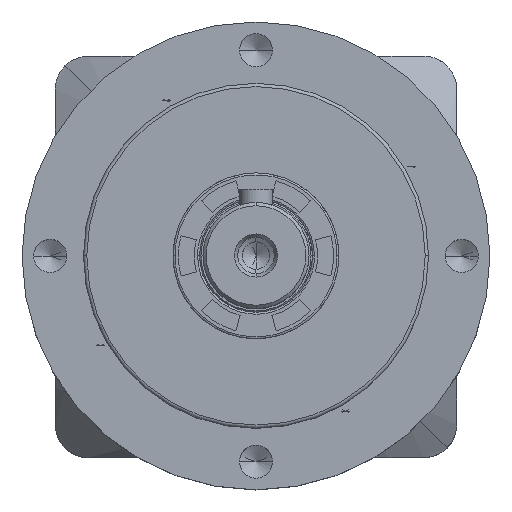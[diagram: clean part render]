
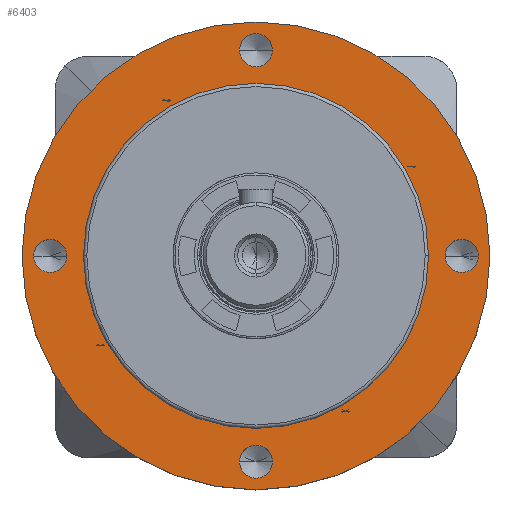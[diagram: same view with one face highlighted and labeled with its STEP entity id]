
A CAD part, top view. The second image highlights one B-rep face of the part: STEP entity #6403.
In plain terms, the highlighted planar face has unit normal (0, 0, 1).
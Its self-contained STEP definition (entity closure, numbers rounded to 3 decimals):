
#63 = CIRCLE ( 'NONE', #2029, 2.5 ) ;
#173 = DIRECTION ( 'NONE',  ( 1., 0., 0. ) ) ;
#534 = AXIS2_PLACEMENT_3D ( 'NONE', #22932, #31582, #24022 ) ;
#1426 = EDGE_CURVE ( 'NONE', #13946, #19860, #8158, .T. ) ;
#1509 = CIRCLE ( 'NONE', #27262, 2.5 ) ;
#1602 = ORIENTED_EDGE ( 'NONE', *, *, #26136, .F. ) ;
#1661 = VERTEX_POINT ( 'NONE', #27101 ) ;
#1818 = EDGE_CURVE ( 'NONE', #21128, #8389, #18633, .T. ) ;
#1856 = DIRECTION ( 'NONE',  ( 0., 0., 1. ) ) ;
#1943 = DIRECTION ( 'NONE',  ( 1., 0., 0. ) ) ;
#1968 = DIRECTION ( 'NONE',  ( 1., 0., 0. ) ) ;
#2029 = AXIS2_PLACEMENT_3D ( 'NONE', #14669, #31997, #27133 ) ;
#2790 = ORIENTED_EDGE ( 'NONE', *, *, #2900, .F. ) ;
#2900 = EDGE_CURVE ( 'NONE', #18194, #21774, #30619, .T. ) ;
#3446 = AXIS2_PLACEMENT_3D ( 'NONE', #15016, #22802, #173 ) ;
#3681 = CARTESIAN_POINT ( 'NONE',  ( -2.5, -31., 14.9 ) ) ;
#4381 = ORIENTED_EDGE ( 'NONE', *, *, #13811, .F. ) ;
#4598 = EDGE_CURVE ( 'NONE', #8389, #21128, #1509, .T. ) ;
#4798 = EDGE_CURVE ( 'NONE', #9972, #21802, #6976, .T. ) ;
#4892 = EDGE_CURVE ( 'NONE', #21774, #18194, #29029, .T. ) ;
#5655 = AXIS2_PLACEMENT_3D ( 'NONE', #9462, #17023, #1968 ) ;
#5719 = AXIS2_PLACEMENT_3D ( 'NONE', #24407, #11755, #14216 ) ;
#6105 = FACE_OUTER_BOUND ( 'NONE', #6590, .T. ) ;
#6403 = ADVANCED_FACE ( 'NONE', ( #25105, #25863, #13886, #20833, #17375, #6105 ), #23927, .T. ) ;
#6590 = EDGE_LOOP ( 'NONE', ( #32033, #9393 ) ) ;
#6618 = CARTESIAN_POINT ( 'NONE',  ( 2.5, 31., 14.9 ) ) ;
#6662 = AXIS2_PLACEMENT_3D ( 'NONE', #27415, #20048, #14955 ) ;
#6753 = EDGE_LOOP ( 'NONE', ( #19141, #8540 ) ) ;
#6833 = DIRECTION ( 'NONE',  ( 0., 0., 1. ) ) ;
#6976 = CIRCLE ( 'NONE', #5655, 35.25 ) ;
#7024 = AXIS2_PLACEMENT_3D ( 'NONE', #29716, #22566, #27445 ) ;
#7228 = CARTESIAN_POINT ( 'NONE',  ( 33.5, 0., 14.9 ) ) ;
#8158 = CIRCLE ( 'NONE', #6662, 26. ) ;
#8389 = VERTEX_POINT ( 'NONE', #9055 ) ;
#8540 = ORIENTED_EDGE ( 'NONE', *, *, #1426, .F. ) ;
#8737 = CIRCLE ( 'NONE', #13973, 2.5 ) ;
#9055 = CARTESIAN_POINT ( 'NONE',  ( -33.5, 0., 14.9 ) ) ;
#9393 = ORIENTED_EDGE ( 'NONE', *, *, #26377, .T. ) ;
#9462 = CARTESIAN_POINT ( 'NONE',  ( 0., 0., 14.9 ) ) ;
#9972 = VERTEX_POINT ( 'NONE', #29829 ) ;
#10339 = DIRECTION ( 'NONE',  ( 1., 0., 0. ) ) ;
#10454 = CIRCLE ( 'NONE', #5719, 2.5 ) ;
#10495 = CARTESIAN_POINT ( 'NONE',  ( -28.5, 0., 14.9 ) ) ;
#10923 = EDGE_CURVE ( 'NONE', #1661, #27506, #8737, .T. ) ;
#11289 = ORIENTED_EDGE ( 'NONE', *, *, #14667, .F. ) ;
#11356 = EDGE_LOOP ( 'NONE', ( #28326, #11289 ) ) ;
#11755 = DIRECTION ( 'NONE',  ( 0., 0., 1. ) ) ;
#11826 = ORIENTED_EDGE ( 'NONE', *, *, #1818, .F. ) ;
#12142 = AXIS2_PLACEMENT_3D ( 'NONE', #16776, #6833, #1943 ) ;
#12175 = DIRECTION ( 'NONE',  ( 0., 0., 1. ) ) ;
#12931 = AXIS2_PLACEMENT_3D ( 'NONE', #17140, #12175, #19632 ) ;
#13811 = EDGE_CURVE ( 'NONE', #24713, #16640, #10454, .T. ) ;
#13886 = FACE_BOUND ( 'NONE', #30769, .T. ) ;
#13946 = VERTEX_POINT ( 'NONE', #20229 ) ;
#13973 = AXIS2_PLACEMENT_3D ( 'NONE', #17690, #29808, #10339 ) ;
#13986 = DIRECTION ( 'NONE',  ( 1., 0., 0. ) ) ;
#14216 = DIRECTION ( 'NONE',  ( 1., 0., 0. ) ) ;
#14667 = EDGE_CURVE ( 'NONE', #27506, #1661, #26696, .T. ) ;
#14669 = CARTESIAN_POINT ( 'NONE',  ( 0., 31., 14.9 ) ) ;
#14753 = ORIENTED_EDGE ( 'NONE', *, *, #4892, .F. ) ;
#14955 = DIRECTION ( 'NONE',  ( 1., 0., 0. ) ) ;
#15016 = CARTESIAN_POINT ( 'NONE',  ( 0., 0., 14.9 ) ) ;
#15263 = EDGE_CURVE ( 'NONE', #19860, #13946, #27825, .T. ) ;
#15591 = DIRECTION ( 'NONE',  ( 1., 0., 0. ) ) ;
#16440 = CARTESIAN_POINT ( 'NONE',  ( 31., 0., 14.9 ) ) ;
#16575 = CARTESIAN_POINT ( 'NONE',  ( 28.5, 0., 14.9 ) ) ;
#16640 = VERTEX_POINT ( 'NONE', #16662 ) ;
#16662 = CARTESIAN_POINT ( 'NONE',  ( -2.5, 31., 14.9 ) ) ;
#16776 = CARTESIAN_POINT ( 'NONE',  ( 0., 0., 14.9 ) ) ;
#17023 = DIRECTION ( 'NONE',  ( 0., 0., 1. ) ) ;
#17140 = CARTESIAN_POINT ( 'NONE',  ( 31., 0., 14.9 ) ) ;
#17367 = ORIENTED_EDGE ( 'NONE', *, *, #4598, .F. ) ;
#17375 = FACE_BOUND ( 'NONE', #6753, .T. ) ;
#17690 = CARTESIAN_POINT ( 'NONE',  ( 0., -31., 14.9 ) ) ;
#18194 = VERTEX_POINT ( 'NONE', #16575 ) ;
#18633 = CIRCLE ( 'NONE', #29470, 2.5 ) ;
#19141 = ORIENTED_EDGE ( 'NONE', *, *, #15263, .F. ) ;
#19632 = DIRECTION ( 'NONE',  ( 1., 0., 0. ) ) ;
#19860 = VERTEX_POINT ( 'NONE', #21184 ) ;
#20048 = DIRECTION ( 'NONE',  ( 0., 0., 1. ) ) ;
#20229 = CARTESIAN_POINT ( 'NONE',  ( 26., 0., 14.9 ) ) ;
#20254 = DIRECTION ( 'NONE',  ( 0., 0., 1. ) ) ;
#20422 = EDGE_LOOP ( 'NONE', ( #4381, #1602 ) ) ;
#20833 = FACE_BOUND ( 'NONE', #20422, .T. ) ;
#21128 = VERTEX_POINT ( 'NONE', #10495 ) ;
#21184 = CARTESIAN_POINT ( 'NONE',  ( -26., 0., 14.9 ) ) ;
#21213 = DIRECTION ( 'NONE',  ( 0., 0., 1. ) ) ;
#21552 = CARTESIAN_POINT ( 'NONE',  ( -31., 0., 14.9 ) ) ;
#21774 = VERTEX_POINT ( 'NONE', #7228 ) ;
#21802 = VERTEX_POINT ( 'NONE', #24442 ) ;
#22184 = CIRCLE ( 'NONE', #7024, 35.25 ) ;
#22566 = DIRECTION ( 'NONE',  ( 0., 0., 1. ) ) ;
#22802 = DIRECTION ( 'NONE',  ( 0., 0., 1. ) ) ;
#22932 = CARTESIAN_POINT ( 'NONE',  ( 0., -31., 14.9 ) ) ;
#23927 = PLANE ( 'NONE',  #12142 ) ;
#24022 = DIRECTION ( 'NONE',  ( 1., 0., 0. ) ) ;
#24407 = CARTESIAN_POINT ( 'NONE',  ( 0., 31., 14.9 ) ) ;
#24442 = CARTESIAN_POINT ( 'NONE',  ( -35.25, 0., 14.9 ) ) ;
#24586 = EDGE_LOOP ( 'NONE', ( #11826, #17367 ) ) ;
#24713 = VERTEX_POINT ( 'NONE', #6618 ) ;
#25105 = FACE_BOUND ( 'NONE', #11356, .T. ) ;
#25863 = FACE_BOUND ( 'NONE', #24586, .T. ) ;
#26136 = EDGE_CURVE ( 'NONE', #16640, #24713, #63, .T. ) ;
#26377 = EDGE_CURVE ( 'NONE', #21802, #9972, #22184, .T. ) ;
#26696 = CIRCLE ( 'NONE', #534, 2.5 ) ;
#27101 = CARTESIAN_POINT ( 'NONE',  ( 2.5, -31., 14.9 ) ) ;
#27133 = DIRECTION ( 'NONE',  ( 1., 0., 0. ) ) ;
#27262 = AXIS2_PLACEMENT_3D ( 'NONE', #21552, #1856, #13986 ) ;
#27415 = CARTESIAN_POINT ( 'NONE',  ( 0., 0., 14.9 ) ) ;
#27445 = DIRECTION ( 'NONE',  ( 1., 0., 0. ) ) ;
#27506 = VERTEX_POINT ( 'NONE', #3681 ) ;
#27825 = CIRCLE ( 'NONE', #3446, 26. ) ;
#28326 = ORIENTED_EDGE ( 'NONE', *, *, #10923, .F. ) ;
#29029 = CIRCLE ( 'NONE', #12931, 2.5 ) ;
#29470 = AXIS2_PLACEMENT_3D ( 'NONE', #30096, #20254, #15591 ) ;
#29716 = CARTESIAN_POINT ( 'NONE',  ( 0., 0., 14.9 ) ) ;
#29808 = DIRECTION ( 'NONE',  ( 0., 0., 1. ) ) ;
#29829 = CARTESIAN_POINT ( 'NONE',  ( 35.25, 0., 14.9 ) ) ;
#30096 = CARTESIAN_POINT ( 'NONE',  ( -31., 0., 14.9 ) ) ;
#30308 = AXIS2_PLACEMENT_3D ( 'NONE', #16440, #21213, #31381 ) ;
#30619 = CIRCLE ( 'NONE', #30308, 2.5 ) ;
#30769 = EDGE_LOOP ( 'NONE', ( #14753, #2790 ) ) ;
#31381 = DIRECTION ( 'NONE',  ( 1., 0., 0. ) ) ;
#31582 = DIRECTION ( 'NONE',  ( 0., 0., 1. ) ) ;
#31997 = DIRECTION ( 'NONE',  ( 0., 0., 1. ) ) ;
#32033 = ORIENTED_EDGE ( 'NONE', *, *, #4798, .T. ) ;
